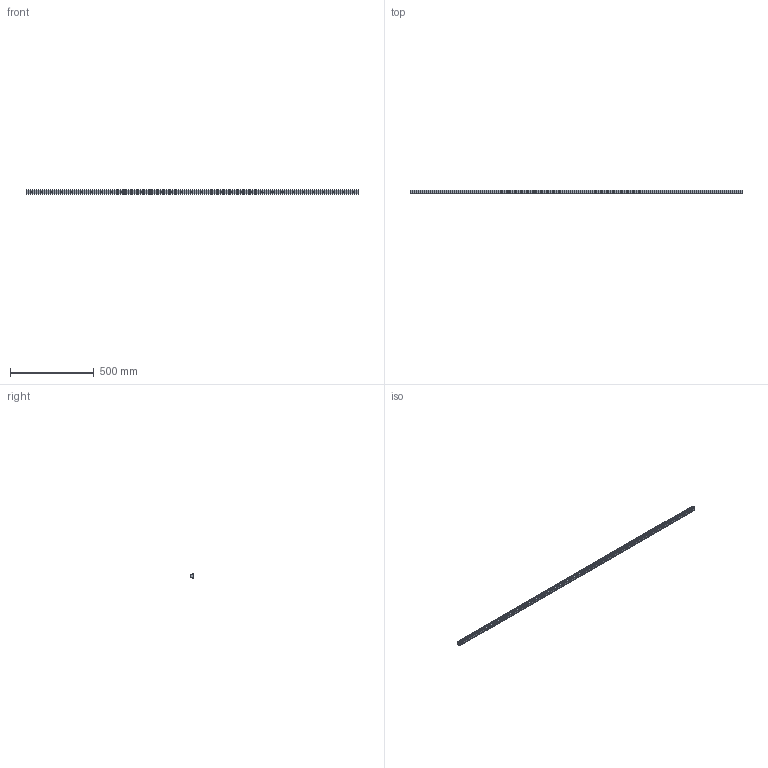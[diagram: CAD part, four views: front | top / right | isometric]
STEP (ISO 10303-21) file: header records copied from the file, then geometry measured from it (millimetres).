
FILE_DESCRIPTION (( 'STEP AP203' ), '1' );
FILE_NAME ('L1018.25R-1980.step', '2023-08-06T10:39:50', ( '' ), ( '' ), 'SwSTEP 2.0', 'SolidWorks 2019', '' );
FILE_SCHEMA (( 'CONFIG_CONTROL_DESIGN' ));
Length unit declared in the file: millimetre
Products named in the file (1): L1018.25R-1980
Bounding box: 1980 x 21.8 x 25 mm (x, y, z)
Volume: 823458.4 mm3; surface area: 197459.1 mm2
Topology: 1 solids, 1 shells, 326 faces, 741 edges, 417 vertices
Faces by surface type: cylinder 135, cone 132, plane 59
Entity records: 8720 total; most frequent: DIRECTION 1665, CARTESIAN_POINT 1419, ORIENTED_EDGE 1350, EDGE_CURVE 675, AXIS2_PLACEMENT_3D 663, VERTEX_POINT 417, EDGE_LOOP 392, LINE 339
